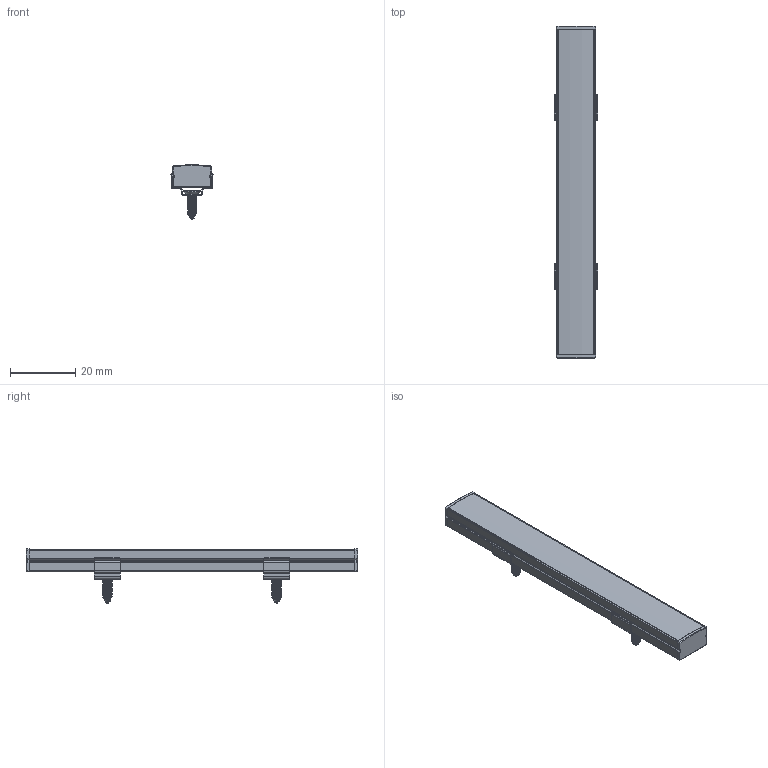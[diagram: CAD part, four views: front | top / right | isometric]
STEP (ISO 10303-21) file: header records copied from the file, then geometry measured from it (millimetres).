
FILE_DESCRIPTION(/* description */ (''),/* implementation_level */ '2;1');
FILE_NAME(/* name */ 'c:\worker\convert-fusion-r02\tmp\job-1\153\output\files\c465d24d-0e7a-4a02-9a7a-bf8f926b77b7\6e20ba03-471d-4db7-8468-64a7c4fd8b2d.stp',/* time_stamp */ '2022-03-30T12:51:35+00:00',/* author */ (''),/* organization */ (''),/* preprocessor_version */ 'ST-DEVELOPER v18.1',/* originating_system */ 'Autodesk Translation Framework v10.14.0.1471',/* authorisation */ '');
FILE_SCHEMA (('AUTOMOTIVE_DESIGN { 1 0 10303 214 3 1 1 }'));
Length unit declared in the file: millimetre
Products named in the file (9): CHAN-1207; M3x6mm; LED Strip Light; End Cap; Aluminium Profile; Light Diffuser / Lens; Mounting Bracket; Mounting Bracket (1); End Cap w/ Cable Out
Assembly tree (10 placements, depth 2):
  CHAN-1207
    M3x6mm  x2
    LED Strip Light  x2
    End Cap
    Aluminium Profile
    Light Diffuser / Lens
    Mounting Bracket
    Mounting Bracket (1)
    End Cap w/ Cable Out
Bounding box: 13.26 x 102.01 x 16.63 mm (x, y, z)
Volume: 5803.6 mm3; surface area: 12845.1 mm2
Topology: 86 solids, 86 shells, 1100 faces, 2538 edges, 1612 vertices
Faces by surface type: plane 516, cylinder 374, sphere 76, bspline 70, torus 52, cone 12
Full cylindrical faces by diameter (mm): 2.356 x8, 2.927 x14, 3.5 x2
Entity records: 23945 total; most frequent: CARTESIAN_POINT 6337, DIRECTION 3736, ORIENTED_EDGE 3498, EDGE_CURVE 1749, AXIS2_PLACEMENT_3D 1366, VERTEX_POINT 1108, LINE 1004, VECTOR 1004
